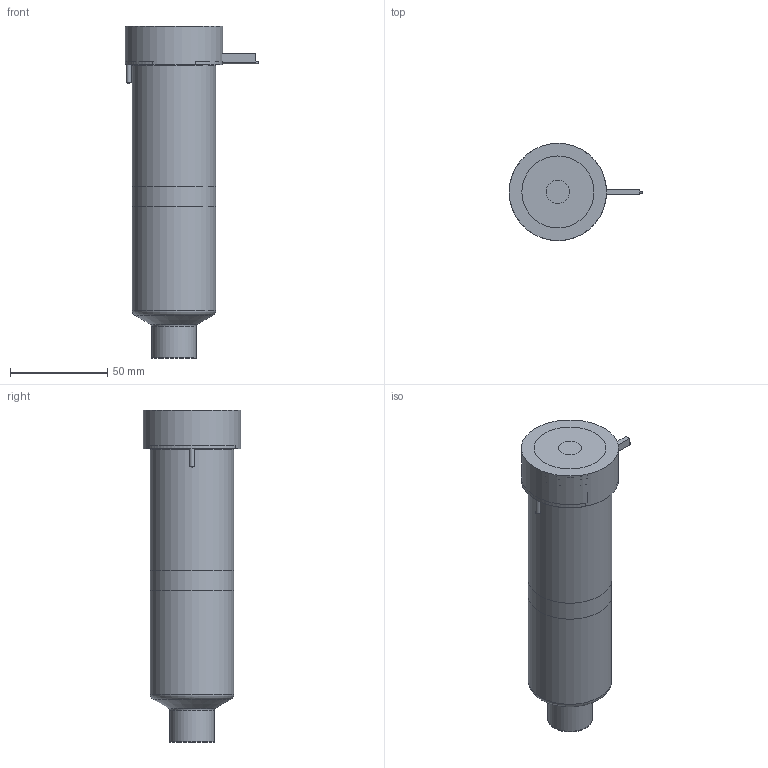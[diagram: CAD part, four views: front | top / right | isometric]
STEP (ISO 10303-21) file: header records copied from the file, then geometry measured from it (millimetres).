
FILE_DESCRIPTION(/* description */ (''),/* implementation_level */ '2;1');
FILE_NAME(/* name */ 'BXTSN-BXISN-BXOSN27145_200C_b',/* time_stamp */ '2007-01-25T15:53:02+13:00',/* author */ (''),/* organization */ (''),/* preprocessor_version */ 'ST-DEVELOPER v9',/* originating_system */ 'UGS - NX 4.0',/* authorisation */ '');
FILE_SCHEMA (('CONFIG_CONTROL_DESIGN'));
Length unit declared in the file: millimetre
Products named in the file (1): BXTSN-BXISN-BXOSN27145_200C_b
Bounding box: 68.6 x 50 x 170.6 mm (x, y, z)
Volume: 440419.3 mm3; surface area: 55092.6 mm2
Topology: 6 solids, 6 shells, 74 faces, 148 edges, 96 vertices
Faces by surface type: plane 33, cylinder 23, cone 9, torus 8, bspline 1
Full cylindrical faces by diameter (mm): 1 x3, 2 x1, 2.5 x2, 12 x1, 22.61 x1, 23.01 x2, 27.5 x1, 38.1 x1, 43 x2, 50 x1
Entity records: 1987 total; most frequent: CARTESIAN_POINT 481, DIRECTION 312, ORIENTED_EDGE 230, AXIS2_PLACEMENT_3D 137, EDGE_CURVE 115, EDGE_LOOP 110, VERTEX_POINT 90, ADVANCED_FACE 74
